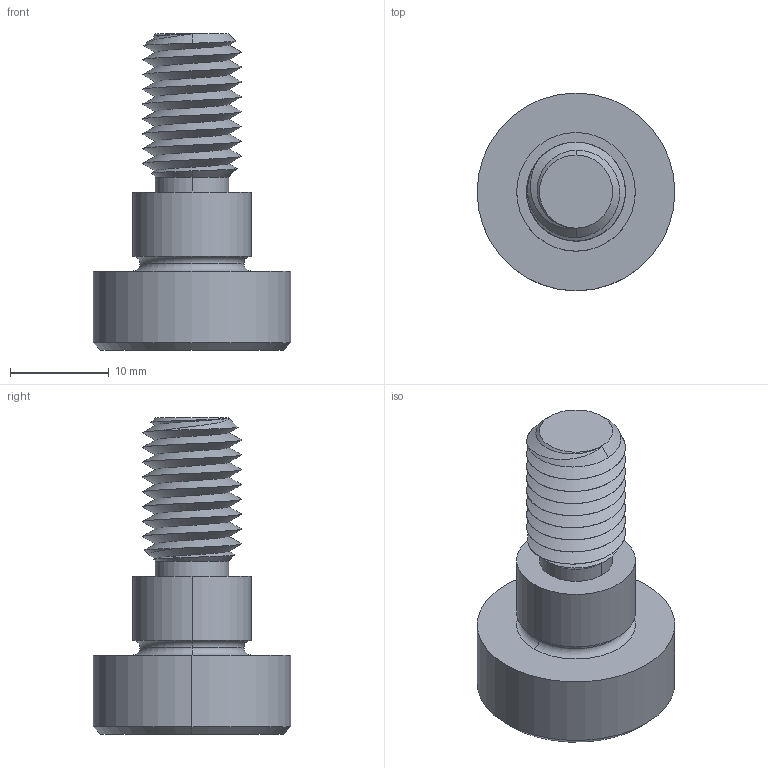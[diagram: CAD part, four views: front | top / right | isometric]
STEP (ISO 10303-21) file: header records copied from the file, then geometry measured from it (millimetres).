
FILE_DESCRIPTION (( 'STEP AP203' ), '1' );
FILE_NAME ('P0130.120-008-B2.step', '2021-11-09T22:00:43', ( '' ), ( '' ), 'SwSTEP 2.0', 'SolidWorks 2019', '' );
FILE_SCHEMA (( 'CONFIG_CONTROL_DESIGN' ));
Length unit declared in the file: millimetre
Products named in the file (1): P0130.120-008-B2
Bounding box: 20 x 20 x 32 mm (x, y, z)
Volume: 4083.9 mm3; surface area: 2358.8 mm2
Topology: 1 solids, 1 shells, 60 faces, 142 edges, 85 vertices
Faces by surface type: cylinder 23, plane 16, cone 15, torus 4, bspline 2
Entity records: 3534 total; most frequent: CARTESIAN_POINT 2187, ORIENTED_EDGE 280, DIRECTION 247, EDGE_CURVE 140, AXIS2_PLACEMENT_3D 99, VERTEX_POINT 85, EDGE_LOOP 63, FACE_OUTER_BOUND 60
